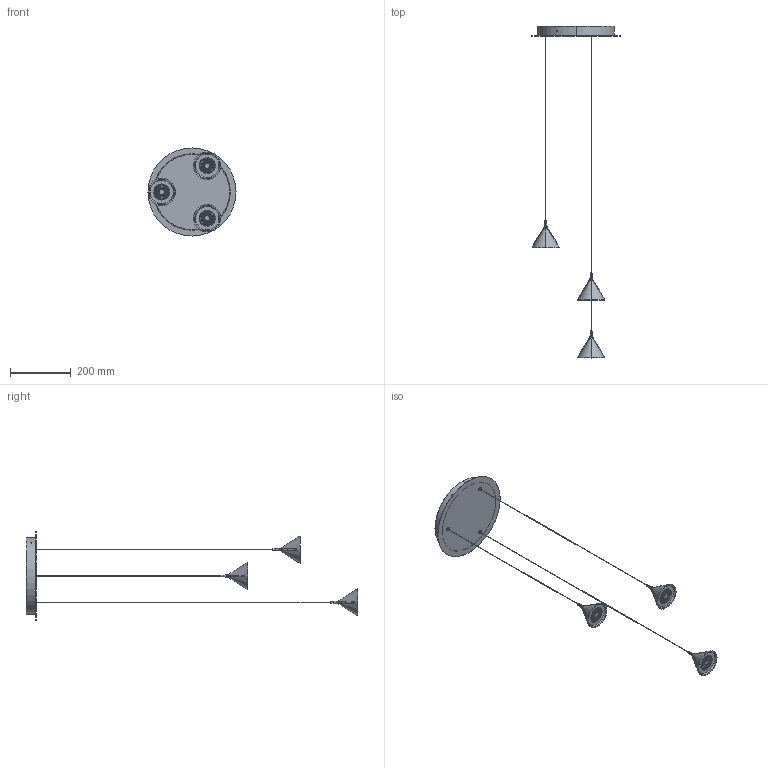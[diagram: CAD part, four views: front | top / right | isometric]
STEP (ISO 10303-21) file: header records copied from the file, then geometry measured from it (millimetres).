
FILE_DESCRIPTION (( 'STEP AP203' ), '1' );
FILE_NAME ('SPJM03X-PER 3D.STEP', '2025-06-30T07:16:10', ( '' ), ( '' ), 'SwSTEP 2.0', 'SolidWorks 2024', '' );
FILE_SCHEMA (( 'CONFIG_CONTROL_DESIGN' ));
Length unit declared in the file: millimetre
Products named in the file (15): WSCM2F0026-0100-01_Default<按加工>; SPJM03X-PER 3D; WSASS-000000058-00-PER 3D; CAVOJEWELM02MTY; ASSIEME HOLDER+LENTE LEDLINK; WSCM2C0184-0100-00; PENDJEWEMO32XXXX-PER 3D; WSR1TLL01CRCEW38L2; WSCP2E0002-1404-00; WSCM2A0067-0700-00; WSM2G1522-FR------
Assembly tree (22 placements, depth 4):
  SPJM03X-PER 3D
    WSASS-000000058-00-PER 3D
      WSCM2F0026-0100-01_Default<按加工>
      WSCM2C0184-0100-00
      WSM2G1522-FR------  x3
    PENDJEWEMO32XXXX-PER 3D
      WSCM2A0067-0700-00
      WSCP2E0002-1404-00
      ASSIEME HOLDER+LENTE LEDLINK
        WSR1TLL01CRCEW38L2
      CAVOJEWELM02MTY
    PENDJEWEMO32XXXX-PER 3D
      WSCM2A0067-0700-00
      WSCP2E0002-1404-00
      ASSIEME HOLDER+LENTE LEDLINK
        WSR1TLL01CRCEW38L2
      CAVOJEWELM02MTY
    PENDJEWEMO32XXXX-PER 3D
      WSCM2A0067-0700-00
      WSCP2E0002-1404-00
      ASSIEME HOLDER+LENTE LEDLINK
        WSR1TLL01CRCEW38L2
      CAVOJEWELM02MTY
Bounding box: 290 x 1093.43 x 290 mm (x, y, z)
Volume: 473875.8 mm3; surface area: 394727.7 mm2
Topology: 17 solids, 17 shells, 2277 faces, 5636 edges, 3352 vertices
Faces by surface type: cylinder 1158, bspline 639, plane 218, cone 216, sphere 30, torus 16
Entity records: 45262 total; most frequent: CARTESIAN_POINT 27353, ORIENTED_EDGE 3860, DIRECTION 2598, EDGE_CURVE 1930, VERTEX_POINT 1168, AXIS2_PLACEMENT_3D 1132, B_SPLINE_CURVE_WITH_KNOTS 1073, EDGE_LOOP 856
